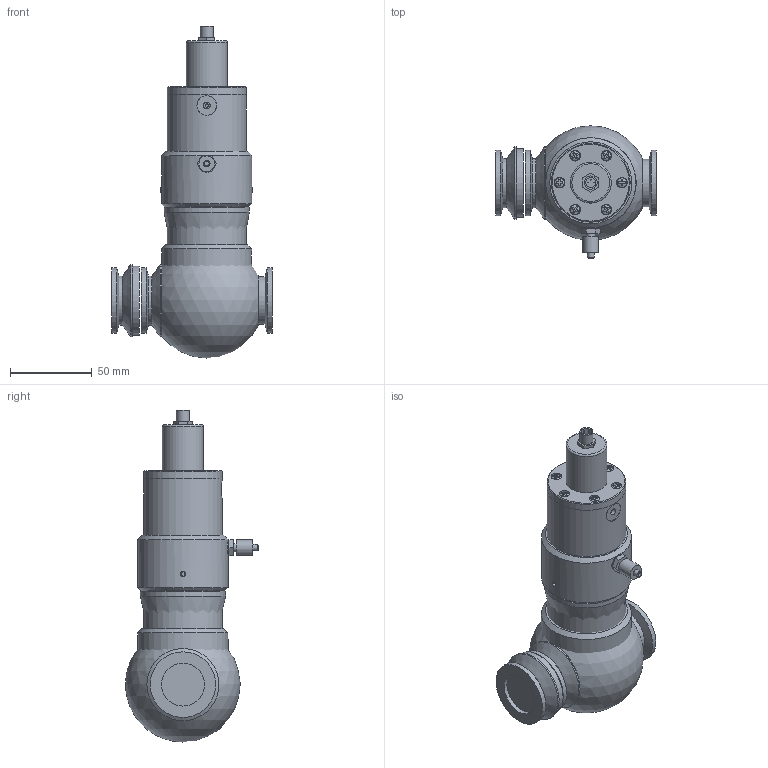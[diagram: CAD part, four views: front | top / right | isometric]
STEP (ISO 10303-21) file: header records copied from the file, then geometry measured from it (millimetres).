
FILE_DESCRIPTION( ( 'Unknown' ), '1' );
FILE_NAME( 'X:/Daten ( aktueller Bestand )/Projekte und Zeichnungen/Solid Edge/21 Eck + Durchgangsventile KF ISO-K, el.pneumatisch/VA/Durchgangsventil/NW25/Internet/313422.stp', 'Unknown', ( 'Unknown' ), ( 'Unknown' ), 'XStep 1.0', 'Unknown', ' ' );
FILE_SCHEMA( ( 'automotive_design' ) );
Length unit declared in the file: millimetre
Products named in the file (12): Assem1; 3034-1; 3034-2; 3034-3; 3034-4; 3104-1; 3102-2; 3102-5; Schraube 3x8; Anschluss Festo; M3x4; 3102-6
Bounding box: 98 x 80.93 x 202.5 mm (x, y, z)
Volume: 505662.9 mm3; surface area: 165726.4 mm2
Topology: 28 solids, 28 shells, 467 faces, 995 edges, 657 vertices
Faces by surface type: plane 257, cylinder 145, cone 52, sphere 11, torus 2
Full cylindrical faces by diameter (mm): 0.5 x6, 2 x2, 2.459 x12, 2.8 x2, 3 x10, 3.242 x4, 3.3 x12, 4 x2, 4.134 x4, 5 x4, 5.793 x7, 6 x4, 6.5 x12, 7.459 x2, 8 x2, 9.518 x2, 10 x2, 10.3 x2, 12 x2, 12.812 x2, 19 x2, 20 x2, 25 x2, 26 x2, 26.2 x4, 27 x4, 29 x2, 30.003 x2, 33.739 x2, 37.97 x2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
Entity records: 5181 total; most frequent: CARTESIAN_POINT 1134, DIRECTION 784, ORIENTED_EDGE 482, AXIS2_PLACEMENT_3D 353, EDGE_LOOP 337, FACE_OUTER_BOUND 250, EDGE_CURVE 241, VERTEX_POINT 217
